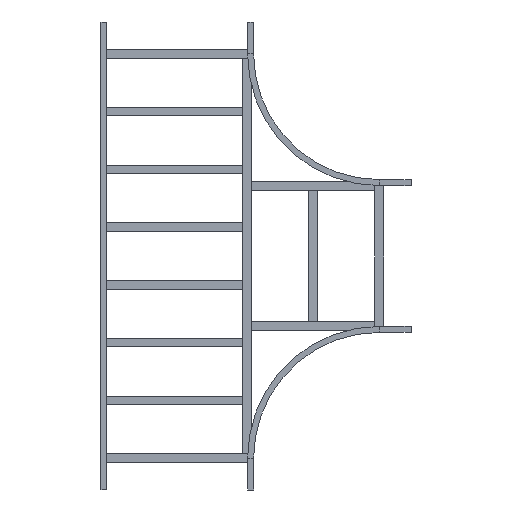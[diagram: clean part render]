
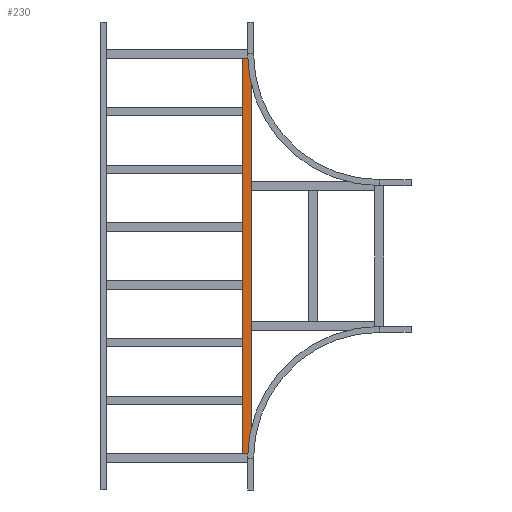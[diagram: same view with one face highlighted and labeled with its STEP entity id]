
A CAD part, front view. The second image highlights one B-rep face of the part: STEP entity #230.
In plain terms, the highlighted planar face has unit normal (0, -1, 0).
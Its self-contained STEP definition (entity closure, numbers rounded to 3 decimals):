
#54 = ORIENTED_EDGE ( 'NONE', *, *, #1905, .T. ) ;
#82 = LINE ( 'NONE', #1779, #783 ) ;
#182 = AXIS2_PLACEMENT_3D ( 'NONE', #1501, #2857, #889 ) ;
#209 = VERTEX_POINT ( 'NONE', #1202 ) ;
#230 = ADVANCED_FACE ( 'NONE', ( #3455 ), #2273, .F. ) ;
#690 = DIRECTION ( 'NONE',  ( -1., 0., 0. ) ) ;
#783 = VECTOR ( 'NONE', #2925, 1000. ) ;
#846 = DIRECTION ( 'NONE',  ( 0., 0., -1. ) ) ;
#865 = ORIENTED_EDGE ( 'NONE', *, *, #3518, .T. ) ;
#889 = DIRECTION ( 'NONE',  ( 0., 0., 1. ) ) ;
#1202 = CARTESIAN_POINT ( 'NONE',  ( 929.75, 0., 20.25 ) ) ;
#1279 = EDGE_CURVE ( 'NONE', #209, #1561, #82, .T. ) ;
#1371 = VECTOR ( 'NONE', #846, 1000. ) ;
#1414 = EDGE_CURVE ( 'NONE', #1561, #3254, #2080, .T. ) ;
#1501 = CARTESIAN_POINT ( 'NONE',  ( 929.75, 0., 20.25 ) ) ;
#1561 = VERTEX_POINT ( 'NONE', #2619 ) ;
#1772 = EDGE_LOOP ( 'NONE', ( #54, #2363, #3319, #865 ) ) ;
#1779 = CARTESIAN_POINT ( 'NONE',  ( 929.75, 0., 20.25 ) ) ;
#1905 = EDGE_CURVE ( 'NONE', #3236, #3254, #2772, .T. ) ;
#1962 = CARTESIAN_POINT ( 'NONE',  ( -929.75, 0., 20.25 ) ) ;
#1964 = CARTESIAN_POINT ( 'NONE',  ( -929.75, 0., -20.25 ) ) ;
#2080 = LINE ( 'NONE', #2381, #2970 ) ;
#2210 = CARTESIAN_POINT ( 'NONE',  ( -929.75, 0., 20.25 ) ) ;
#2273 = PLANE ( 'NONE',  #182 ) ;
#2363 = ORIENTED_EDGE ( 'NONE', *, *, #1414, .F. ) ;
#2381 = CARTESIAN_POINT ( 'NONE',  ( 929.75, 0., -20.25 ) ) ;
#2619 = CARTESIAN_POINT ( 'NONE',  ( 929.75, 0., -20.25 ) ) ;
#2664 = DIRECTION ( 'NONE',  ( -1., 0., 0. ) ) ;
#2772 = LINE ( 'NONE', #1962, #1371 ) ;
#2857 = DIRECTION ( 'NONE',  ( 0., 1., 0. ) ) ;
#2925 = DIRECTION ( 'NONE',  ( 0., 0., -1. ) ) ;
#2970 = VECTOR ( 'NONE', #2664, 1000. ) ;
#3166 = VECTOR ( 'NONE', #690, 1000. ) ;
#3209 = CARTESIAN_POINT ( 'NONE',  ( 929.75, 0., 20.25 ) ) ;
#3230 = LINE ( 'NONE', #3209, #3166 ) ;
#3236 = VERTEX_POINT ( 'NONE', #2210 ) ;
#3254 = VERTEX_POINT ( 'NONE', #1964 ) ;
#3319 = ORIENTED_EDGE ( 'NONE', *, *, #1279, .F. ) ;
#3455 = FACE_OUTER_BOUND ( 'NONE', #1772, .T. ) ;
#3518 = EDGE_CURVE ( 'NONE', #209, #3236, #3230, .T. ) ;
